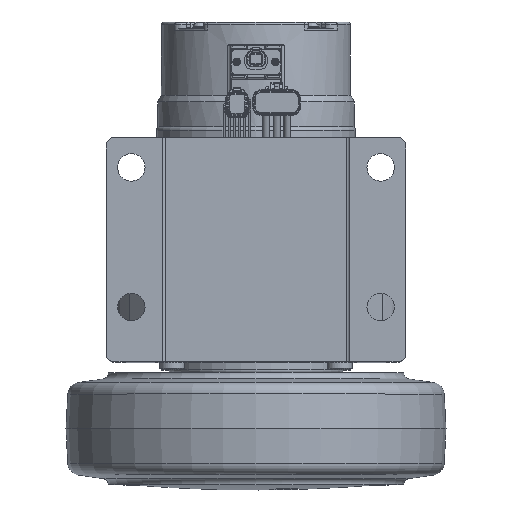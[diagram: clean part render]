
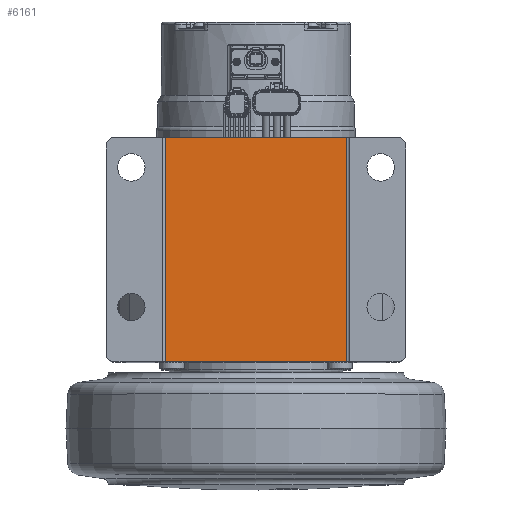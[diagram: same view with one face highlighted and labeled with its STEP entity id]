
A CAD part, top view. The second image highlights one B-rep face of the part: STEP entity #6161.
In plain terms, the highlighted planar face has unit normal (0, 0, 1).
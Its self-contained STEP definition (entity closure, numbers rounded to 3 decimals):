
#4021=FACE_OUTER_BOUND('',#11266,.T.);
#6161=ADVANCED_FACE('',(#4021),#8772,.T.);
#8772=PLANE('',#43232);
#11266=EDGE_LOOP('',(#20191,#20192,#20193,#20194));
#14404=LINE('',#60259,#17215);
#14428=LINE('',#60349,#17239);
#14481=LINE('',#60539,#17292);
#14482=LINE('',#60540,#17293);
#17215=VECTOR('',#47961,1.);
#17239=VECTOR('',#48023,1.);
#17292=VECTOR('',#48152,1.);
#17293=VECTOR('',#48153,1.);
#20191=ORIENTED_EDGE('',*,*,#35229,.T.);
#20192=ORIENTED_EDGE('',*,*,#35350,.T.);
#20193=ORIENTED_EDGE('',*,*,#35269,.T.);
#20194=ORIENTED_EDGE('',*,*,#35351,.T.);
#31576=VERTEX_POINT('',#60258);
#31577=VERTEX_POINT('',#60260);
#31615=VERTEX_POINT('',#60348);
#31616=VERTEX_POINT('',#60350);
#35229=EDGE_CURVE('',#31577,#31576,#14404,.T.);
#35269=EDGE_CURVE('',#31616,#31615,#14428,.T.);
#35350=EDGE_CURVE('',#31576,#31616,#14481,.T.);
#35351=EDGE_CURVE('',#31615,#31577,#14482,.T.);
#43232=AXIS2_PLACEMENT_3D('',#60541,#48154,#48155);
#47961=DIRECTION('',(1.,0.,0.));
#48023=DIRECTION('',(-1.,0.,0.));
#48152=DIRECTION('',(0.,1.,0.));
#48153=DIRECTION('',(0.,-1.,0.));
#48154=DIRECTION('',(0.,0.,1.));
#48155=DIRECTION('',(-1.,0.,0.));
#60258=CARTESIAN_POINT('',(36.5,-10.,124.));
#60259=CARTESIAN_POINT('',(0.,-10.,124.));
#60260=CARTESIAN_POINT('',(-36.5,-10.,124.));
#60348=CARTESIAN_POINT('',(-36.5,80.,124.));
#60349=CARTESIAN_POINT('',(37.5,80.,124.));
#60350=CARTESIAN_POINT('',(36.5,80.,124.));
#60539=CARTESIAN_POINT('',(36.5,80.,124.));
#60540=CARTESIAN_POINT('',(-36.5,80.,124.));
#60541=CARTESIAN_POINT('',(0.,-5.,124.));
